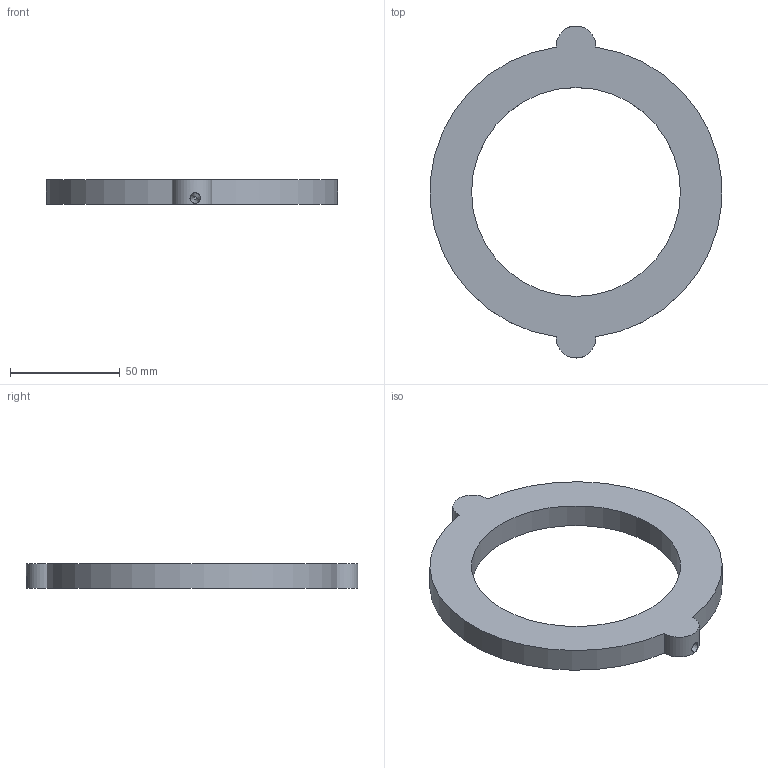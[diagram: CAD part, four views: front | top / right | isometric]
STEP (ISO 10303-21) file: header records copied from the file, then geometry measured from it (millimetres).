
FILE_DESCRIPTION(('FreeCAD Model'),'2;1');
FILE_NAME('Open CASCADE Shape Model','2023-07-22T18:23:59',(''),(''), 'Open CASCADE STEP processor 7.6','FreeCAD','Unknown');
FILE_SCHEMA(('AUTOMOTIVE_DESIGN { 1 0 10303 214 1 1 1 1 }'));
Length unit declared in the file: millimetre
Products named in the file (1): GussformOben
Bounding box: 132.53 x 151 x 11 mm (x, y, z)
Volume: 67631.2 mm3; surface area: 36747.4 mm2
Topology: 1 solids, 1 shells, 15 faces, 35 edges, 24 vertices
Faces by surface type: cylinder 6, plane 4, cone 3, torus 2
Full cylindrical faces by diameter (mm): 95 x1, 128.895 x1
Entity records: 923 total; most frequent: CARTESIAN_POINT 535, DIRECTION 77, ORIENTED_EDGE 70, EDGE_CURVE 35, AXIS2_PLACEMENT_3D 34, VERTEX_POINT 24, FACE_BOUND 23, EDGE_LOOP 23
